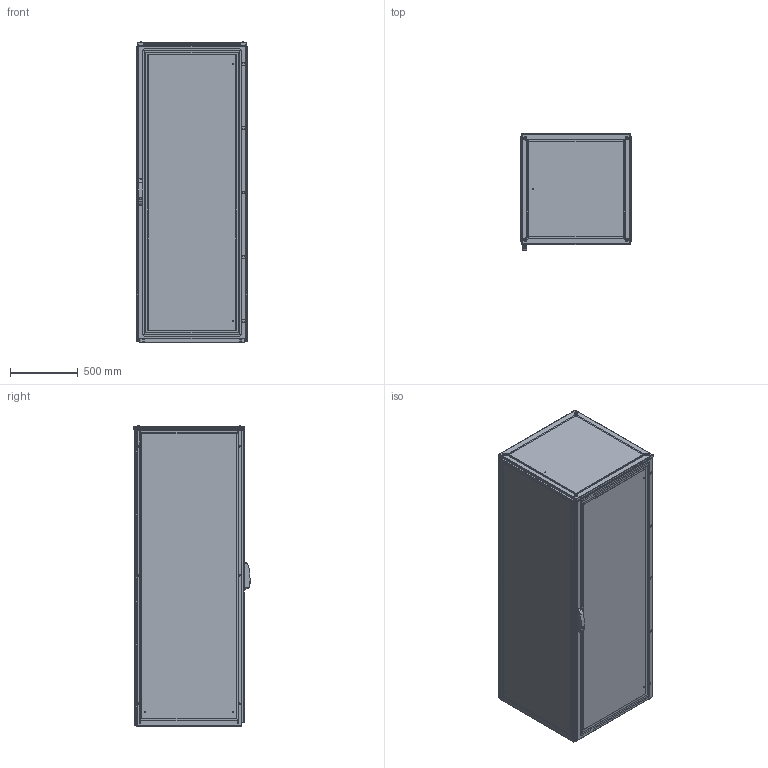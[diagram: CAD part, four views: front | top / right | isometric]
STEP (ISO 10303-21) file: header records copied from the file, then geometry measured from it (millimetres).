
FILE_DESCRIPTION(/* description */ ('STEP AP214'),/* implementation_level */ '2;1');
FILE_NAME(/* name */ 'ENUX082208PR-LOD350',/* time_stamp */ '2025-10-03T13:40:08+02:00',/* author */ ('License CC BY-ND 4.0'),/* organization */ ('CADENAS'),/* preprocessor_version */ 'ST-DEVELOPER v19.3',/* originating_system */ 'PARTsolutions',/* authorisation */ ' ');
FILE_SCHEMA (('AUTOMOTIVE_DESIGN {1 0 10303 214 3 1 1}'));
Length unit declared in the file: millimetre
Products named in the file (10): ENUX082208PR-LOD350; ENUX082208PR-LOD350_CON; ENUX082208PR-LOD350_floor1; ENUX082208PR-LOD350_floor2; Screw M12x30 architecture 350; ENUX082208PR-LOD350_side; ENUX082208PR-LOD350_top; ENUX082208PR-LOD350_back_door; ENUX082208PR-LOD350_door; ENUX082208PR-LOD350_handle
Assembly tree (18 placements, depth 2):
  ENUX082208PR-LOD350
    ENUX082208PR-LOD350_CON
    ENUX082208PR-LOD350_floor1  x2
    ENUX082208PR-LOD350_floor2  x5
    Screw M12x30 architecture 350  x4
    ENUX082208PR-LOD350_side  x2
    ENUX082208PR-LOD350_top
    ENUX082208PR-LOD350_back_door
    ENUX082208PR-LOD350_door
    ENUX082208PR-LOD350_handle
Bounding box: 812 x 857 x 2214.1 mm (x, y, z)
Volume: 26976514.9 mm3; surface area: 23524711.6 mm2
Topology: 18 solids, 18 shells, 2014 faces, 5677 edges, 3704 vertices
Faces by surface type: plane 1008, cylinder 831, cone 83, torus 76, sphere 16
Full cylindrical faces by diameter (mm): 4.5 x156, 6 x14, 6.8 x8, 9 x9, 12 x16, 13 x4, 18 x1, 21 x4
Entity records: 51731 total; most frequent: DIRECTION 8965, CARTESIAN_POINT 8939, ORIENTED_EDGE 8400, EDGE_CURVE 4200, AXIS2_PLACEMENT_3D 3212, VERTEX_POINT 2945, LINE 2541, VECTOR 2541
